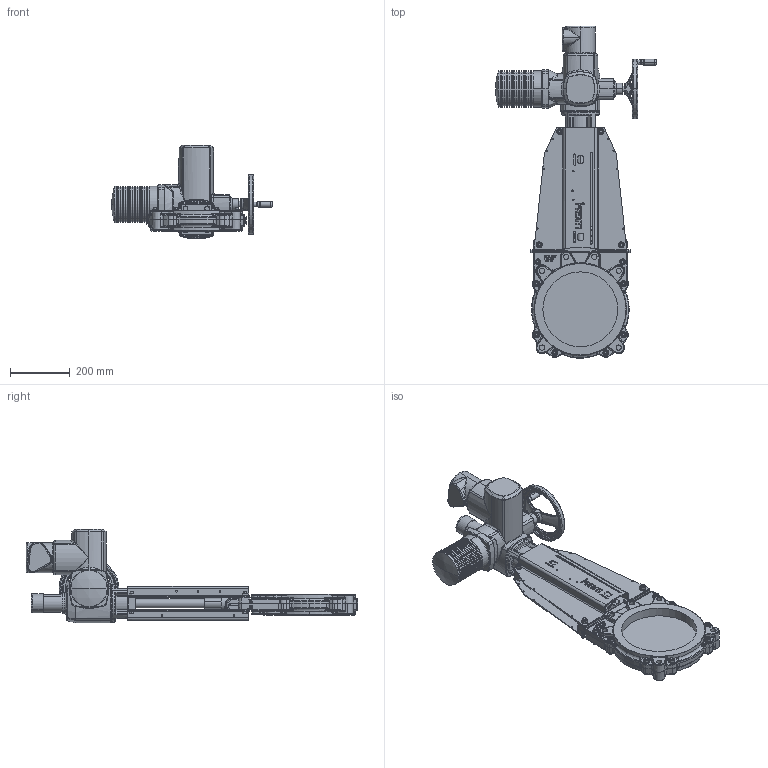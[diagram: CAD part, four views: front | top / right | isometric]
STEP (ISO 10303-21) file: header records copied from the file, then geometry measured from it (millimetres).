
FILE_DESCRIPTION (( 'STEP AP214' ), '1' );
FILE_NAME ('VSE DN 0250.STEP', '2015-09-23T11:20:47', ( 'admin' ), ( 'Hewlett-Packard Company' ), 'SwSTEP 2.0', 'SolidWorks 2013', '' );
FILE_SCHEMA (( 'AUTOMOTIVE_DESIGN' ));
Length unit declared in the file: millimetre
Products named in the file (1): VSE DN 0250
Bounding box: 537 x 1107.57 x 313 mm (x, y, z)
Volume: 14937322.6 mm3; surface area: 1595328.7 mm2
Topology: 65 solids, 69 shells, 3557 faces, 8468 edges, 4985 vertices
Faces by surface type: plane 1086, cylinder 985, bspline 632, cone 556, torus 280, sphere 18
Entity records: 173968 total; most frequent: CARTESIAN_POINT 56530, ORIENTED_EDGE 16608, DIRECTION 15657, EDGE_CURVE 8304, AXIS2_PLACEMENT_3D 6331, VERTEX_POINT 4985, EDGE_LOOP 3909, UNCERTAINTY_MEASURE_WITH_UNIT 3624
